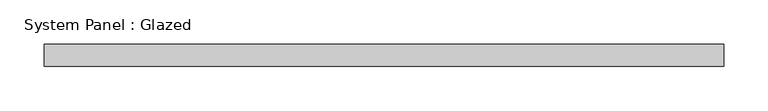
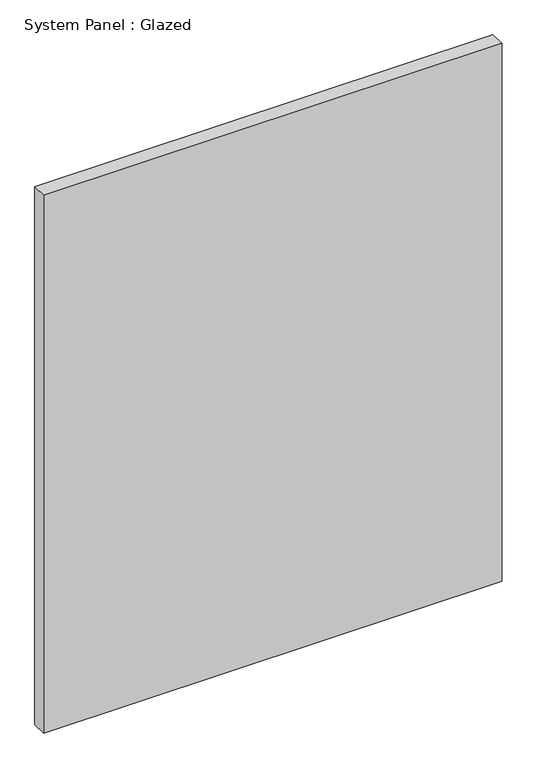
"""IFC4 building model written with IfcOpenShell, lengths in millimetres: plate geometry, System Panel : Glazed."""

import ifcopenshell
import ifcopenshell.guid

model = None  # the IFC model being written
_history = None  # IfcOwnerHistory: only IFC2X3 demands one
_inside = {}  # id of a spatial element -> (the spatial element, [elements in it])
_under = {}  # id of a project, library or spatial element -> (it, [spatial elements below it])
_declared = {}  # id of a project -> (the project, [libraries it declares])
_typed = {}  # id of a type object -> (the type object, [elements of that type])
_made_of = {}  # id of a material, layer set ... -> (it, [elements and type objects made of it])


def new_model(schema):
    """Start an empty IFC model of exactly this schema.

    Asked for "IFC4X3", IfcOpenShell would pick the latest addendum, in which some entities
    have other attributes; the version numbers below select the first issue.
    IFC2X3 requires an IfcOwnerHistory on every rooted entity: one is made here for all.
    """
    global model, _history
    if schema == "IFC4X3":
        model = ifcopenshell.file(schema_version=(4, 3, 0, 0))
    else:
        model = ifcopenshell.file(schema=schema)
    _inside.clear()
    _under.clear()
    _declared.clear()
    _typed.clear()
    _made_of.clear()
    _history = None
    if model.schema == "IFC2X3":
        org = make("IfcOrganization", Name="unknown")
        user = make(
            "IfcPersonAndOrganization",
            ThePerson=make("IfcPerson", FamilyName="unknown"),
            TheOrganization=org,
        )
        app = make(
            "IfcApplication",
            ApplicationDeveloper=org,
            Version="unknown",
            ApplicationFullName="unknown",
            ApplicationIdentifier="unknown",
        )
        _history = make(
            "IfcOwnerHistory",
            OwningUser=user,
            OwningApplication=app,
            ChangeAction="ADDED",
            CreationDate=0,
        )
    return model


def make(cls, **values):
    """One entity of the class cls with the attributes given. An attribute that is None is left unset."""
    return model.create_entity(
        cls, **{name: value for name, value in values.items() if value is not None}
    )


def rooted(cls, **values):
    """An entity with a GlobalId (a new one), such as an element, a storey or a relation."""
    return make(cls, GlobalId=ifcopenshell.guid.new(), OwnerHistory=_history, **values)


def si_unit(unit_type, name, prefix=None):
    """IfcSIUnit, for example si_unit("LENGTHUNIT", "METRE", prefix="MILLI")."""
    return make("IfcSIUnit", UnitType=unit_type, Prefix=prefix, Name=name)


def assignment(units):
    """IfcUnitAssignment: the units of a project."""
    return None if units is None else make("IfcUnitAssignment", Units=units)


def point(xyz):
    """IfcCartesianPoint."""
    return None if xyz is None else make("IfcCartesianPoint", Coordinates=xyz)


def direction(xyz):
    """IfcDirection."""
    return None if xyz is None else make("IfcDirection", DirectionRatios=xyz)


def frame(location, z_axis=None, x_axis=None):
    """IfcAxis2Placement3D, a coordinate frame: its origin and axes. An axis left out is left unset."""
    return make(
        "IfcAxis2Placement3D",
        Location=point(location),
        Axis=direction(z_axis),
        RefDirection=direction(x_axis),
    )


def origin():
    """The frame at (0, 0, 0) with its axes left unset."""
    return frame((0.0, 0.0, 0.0))


def origin_with_axes():
    """The frame at (0, 0, 0) with the z axis (0, 0, 1) and the x axis (1, 0, 0) written out."""
    return frame((0.0, 0.0, 0.0), z_axis=(0.0, 0.0, 1.0), x_axis=(1.0, 0.0, 0.0))


def place(relative_to, where):
    """IfcLocalPlacement: puts the frame where relative to a parent placement (None: the world)."""
    return make(
        "IfcLocalPlacement", PlacementRelTo=relative_to, RelativePlacement=where
    )


def context(
    kind, dimensions, precision=None, world=None, true_north=None, identifier=None
):
    """IfcGeometricRepresentationContext, for example the 3D "Model" context."""
    return make(
        "IfcGeometricRepresentationContext",
        ContextIdentifier=identifier,
        ContextType=kind,
        CoordinateSpaceDimension=dimensions,
        Precision=precision,
        WorldCoordinateSystem=world,
        TrueNorth=true_north,
    )


def project(units=None, contexts=None):
    """IfcProject with its units and contexts."""
    return rooted(
        "IfcProject",
        Name="project",
        RepresentationContexts=contexts,
        UnitsInContext=assignment(units),
    )


def spatial(cls, under=None, at=None, **own):
    """A site, building, storey or space (cls), placed at a placement, below another one or the project."""
    s = rooted(cls, ObjectPlacement=at, **own)
    if under is not None:
        _under.setdefault(under.id(), (under, []))[1].append(s)
    return s


def polyline(points):
    """IfcPolyline through the points."""
    return make("IfcPolyline", Points=[point(p) for p in points])


def outline(outer, holes=None, kind="AREA"):
    """IfcArbitraryClosedProfileDef: a profile drawn as a closed curve; with holes, ...WithVoids."""
    if holes is None:
        return make("IfcArbitraryClosedProfileDef", ProfileType=kind, OuterCurve=outer)
    return make(
        "IfcArbitraryProfileDefWithVoids",
        ProfileType=kind,
        OuterCurve=outer,
        InnerCurves=holes,
    )


def extrude(swept, where, along, depth):
    """IfcExtrudedAreaSolid: the profile swept, set in the frame where, extruded along a direction by depth."""
    return make(
        "IfcExtrudedAreaSolid",
        SweptArea=swept,
        Position=where,
        ExtrudedDirection=direction(along),
        Depth=depth,
    )


def shape(context_of_items, identifier, shape_type, items):
    """IfcShapeRepresentation: the items that make up one representation, for example the "Body"."""
    return make(
        "IfcShapeRepresentation",
        ContextOfItems=context_of_items,
        RepresentationIdentifier=identifier,
        RepresentationType=shape_type,
        Items=items,
    )


def source(mapping_origin, context_of_items, identifier, shape_type, items):
    """IfcRepresentationMap: a shape defined once, which mapped items show again and again."""
    return make(
        "IfcRepresentationMap",
        MappingOrigin=mapping_origin,
        MappedRepresentation=shape(context_of_items, identifier, shape_type, items),
    )


def transform(
    local_origin,
    x_axis=None,
    y_axis=None,
    z_axis=None,
    scale=None,
    scale2=None,
    scale3=None,
    uniform=True,
):
    """IfcCartesianTransformationOperator3D, or its non-uniform kind. x_axis, y_axis, z_axis: its Axis1, 2, 3."""
    if uniform:
        return make(
            "IfcCartesianTransformationOperator3D",
            Axis1=direction(x_axis),
            Axis2=direction(y_axis),
            LocalOrigin=point(local_origin),
            Scale=scale,
            Axis3=direction(z_axis),
        )
    return make(
        "IfcCartesianTransformationOperator3DnonUniform",
        Axis1=direction(x_axis),
        Axis2=direction(y_axis),
        LocalOrigin=point(local_origin),
        Scale=scale,
        Axis3=direction(z_axis),
        Scale2=scale2,
        Scale3=scale3,
    )


def mapped(mapping_source, mapping_target):
    """IfcMappedItem: shows the shape of a source again, moved by a transform."""
    return make(
        "IfcMappedItem", MappingSource=mapping_source, MappingTarget=mapping_target
    )


def made_of(thing, what):
    """Note that an element or type object is made of a material, layer set ...; save() writes the relation."""
    if what is not None:
        _made_of.setdefault(what.id(), (what, []))[1].append(thing)
    return thing


def element(
    cls,
    number,
    at=None,
    inside=None,
    cuts=None,
    type_object=None,
    material=None,
    context=None,
    identifier="Body",
    shape_type=None,
    held_by="IfcProductDefinitionShape",
    body=None,
    shapes=None,
    **own,
):
    """One element of the class cls, such as IfcWall. Its Tag is "e" and its number.

    at: its placement. inside: the storey or other place that contains it. cuts: it is an
    opening in that element (IfcRelVoidsElement). A single representation is given by context,
    identifier, shape_type and body (its items); several are given by shapes. held_by: the class
    of the entity that holds the representations. save() writes the other relations.
    """
    e = rooted(cls, Tag="e%d" % number, ObjectPlacement=at, **own)
    if body is not None:
        shapes = [shape(context, identifier, shape_type, body)]
    if shapes is not None:
        e.Representation = make(held_by, Representations=shapes)
    if inside is not None:
        _inside.setdefault(inside.id(), (inside, []))[1].append(e)
    if cuts is not None:
        rooted(
            "IfcRelVoidsElement", RelatingBuildingElement=cuts, RelatedOpeningElement=e
        )
    if type_object is not None:
        _typed.setdefault(type_object.id(), (type_object, []))[1].append(e)
    return made_of(e, material)


def aggregate(whole, parts):
    """IfcRelAggregates: a whole, such as a stair, and the parts it consists of."""
    return rooted("IfcRelAggregates", RelatingObject=whole, RelatedObjects=parts)


def save(model, path):
    """Write the relations noted so far, then the file.

    IfcRelAggregates (storeys below a building ...), IfcRelContainedInSpatialStructure (elements
    in a storey), IfcRelDefinesByType, IfcRelAssociatesMaterial and IfcRelDeclares: one each for
    every whole, place, type object, material and project.
    """
    for whole, parts in _under.values():
        aggregate(whole, parts)
    for where, things in _inside.values():
        rooted(
            "IfcRelContainedInSpatialStructure",
            RelatedElements=things,
            RelatingStructure=where,
        )
    for kind, things in _typed.values():
        rooted("IfcRelDefinesByType", RelatedObjects=things, RelatingType=kind)
    for what, things in _made_of.values():
        rooted("IfcRelAssociatesMaterial", RelatedObjects=things, RelatingMaterial=what)
    for by, libraries in _declared.values():
        rooted("IfcRelDeclares", RelatingContext=by, RelatedDefinitions=libraries)
    model.write(path)


def system_panel_glazed_fb9fd98d(model_context):
    return source(origin(), model_context, "Body", "SweptSolid", [
        extrude(outline(polyline([(383.1424493, 24.5), (-383.1424493, 24.5), (-383.1424493, 49.5), (383.1424493, 49.5), (383.1424493, 24.5)])), origin_with_axes(), (0.0, 0.0, 1.0), 950.0),
    ])


if __name__ == "__main__":
    model = new_model("IFC4")
    model_context = context("Model", 3, world=origin())
    ifc_project = project(units=[si_unit("LENGTHUNIT", "METRE", prefix="MILLI")], contexts=[model_context])
    site = spatial("IfcSite", under=ifc_project)
    building = spatial("IfcBuilding", under=site)
    placement = place(None, origin())
    system_panel_glazed_shape = system_panel_glazed_fb9fd98d(model_context)
    element("IfcPlate", 1, ObjectType="System Panel : Glazed", at=placement, inside=building, context=model_context, shape_type="MappedRepresentation", body=[
        mapped(system_panel_glazed_shape, transform((0.0, 0.0, 0.0), x_axis=(1.0, 0.0, 0.0), y_axis=(0.0, 1.0, 0.0), z_axis=(0.0, 0.0, 1.0))),
    ])
    save(model, "model.ifc")
